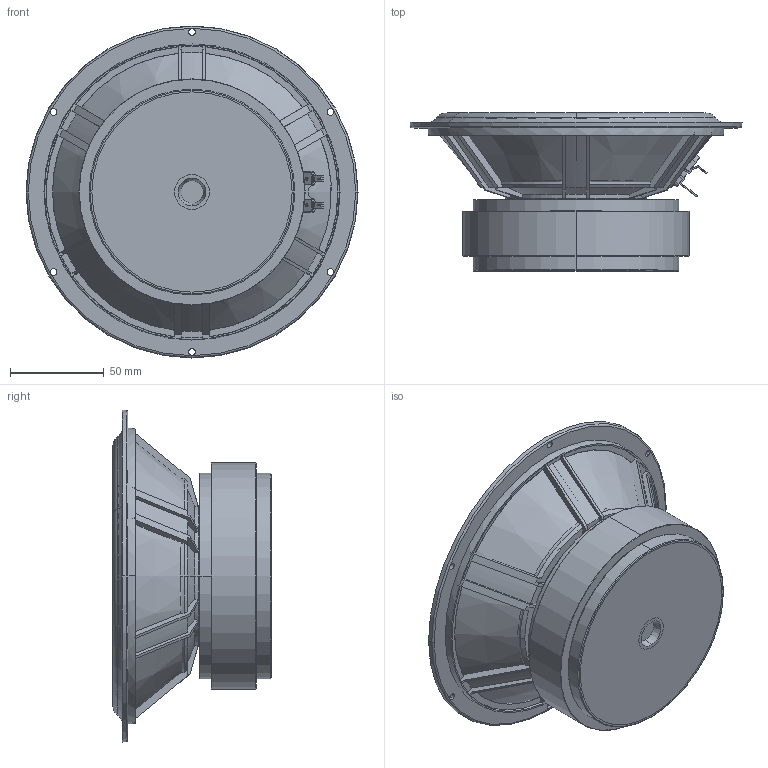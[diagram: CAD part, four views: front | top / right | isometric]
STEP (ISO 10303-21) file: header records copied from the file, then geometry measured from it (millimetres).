
FILE_DESCRIPTION (( 'STEP AP214' ), '1' );
FILE_NAME ('18w-8545k00.STEP', '2020-10-20T09:24:30', ( '' ), ( '' ), 'SwSTEP 2.0', 'SolidWorks 2019', '' );
FILE_SCHEMA (( 'AUTOMOTIVE_DESIGN' ));
Length unit declared in the file: millimetre
Products named in the file (1): 18w-8545k00
Bounding box: 177.51 x 84.49 x 177.51 mm (x, y, z)
Volume: 1114343.4 mm3; surface area: 297011.8 mm2
Topology: 19 solids, 19 shells, 741 faces, 1854 edges, 1147 vertices
Faces by surface type: plane 268, cone 172, cylinder 164, torus 130, bspline 5, sphere 2
Entity records: 30569 total; most frequent: CARTESIAN_POINT 4534, DIRECTION 3965, ORIENTED_EDGE 3688, EDGE_CURVE 1844, AXIS2_PLACEMENT_3D 1558, VERTEX_POINT 1143, VECTOR 849, LINE 849
